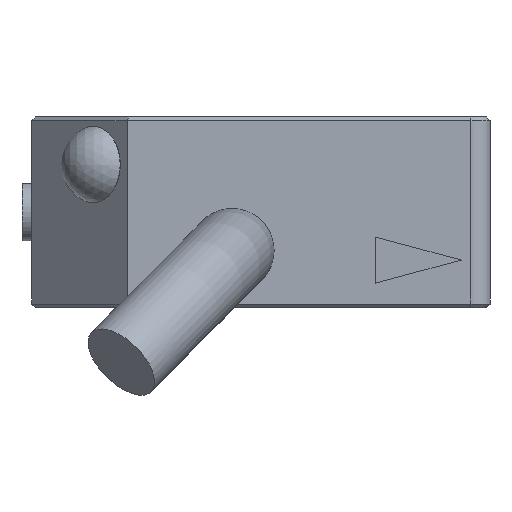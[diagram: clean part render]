
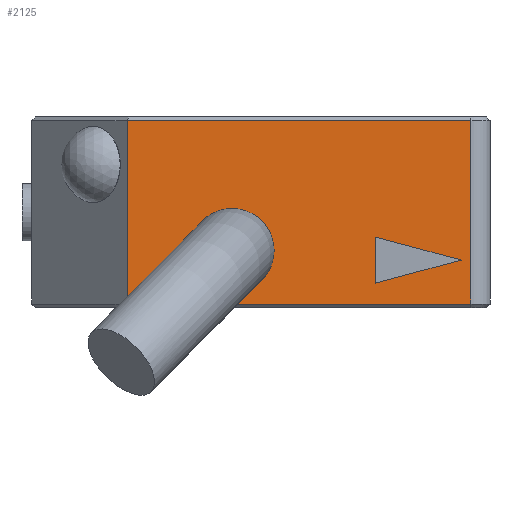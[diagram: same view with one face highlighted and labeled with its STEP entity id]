
A CAD part, left-side view. The second image highlights one B-rep face of the part: STEP entity #2125.
In plain terms, the highlighted planar face has unit normal (-1, 0, 0).
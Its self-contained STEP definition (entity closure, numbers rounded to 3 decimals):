
#136=FACE_BOUND('',#905,.T.);
#137=FACE_BOUND('',#906,.T.);
#180=CIRCLE('',#2309,2.2);
#181=CIRCLE('',#2310,2.2);
#307=LINE('',#3555,#512);
#309=LINE('',#3559,#514);
#310=LINE('',#3561,#515);
#311=LINE('',#3562,#516);
#312=LINE('',#3565,#517);
#313=LINE('',#3567,#518);
#314=LINE('',#3568,#519);
#512=VECTOR('',#2649,1000.);
#514=VECTOR('',#2653,1000.);
#515=VECTOR('',#2654,1000.);
#516=VECTOR('',#2655,1000.);
#517=VECTOR('',#2656,1000.);
#518=VECTOR('',#2657,1000.);
#519=VECTOR('',#2658,1000.);
#684=PLANE('',#2315);
#768=FACE_OUTER_BOUND('',#904,.T.);
#904=EDGE_LOOP('',(#1622,#1623,#1624,#1625));
#905=EDGE_LOOP('',(#1626,#1627));
#906=EDGE_LOOP('',(#1628,#1629,#1630));
#1092=VERTEX_POINT('',#3536);
#1093=VERTEX_POINT('',#3537);
#1099=VERTEX_POINT('',#3552);
#1100=VERTEX_POINT('',#3554);
#1101=VERTEX_POINT('',#3558);
#1102=VERTEX_POINT('',#3560);
#1103=VERTEX_POINT('',#3563);
#1104=VERTEX_POINT('',#3564);
#1105=VERTEX_POINT('',#3566);
#1285=EDGE_CURVE('',#1092,#1093,#180,.T.);
#1287=EDGE_CURVE('',#1093,#1092,#181,.T.);
#1293=EDGE_CURVE('',#1100,#1099,#307,.T.);
#1295=EDGE_CURVE('',#1099,#1101,#309,.T.);
#1296=EDGE_CURVE('',#1101,#1102,#310,.T.);
#1297=EDGE_CURVE('',#1102,#1100,#311,.T.);
#1298=EDGE_CURVE('',#1103,#1104,#312,.T.);
#1299=EDGE_CURVE('',#1105,#1103,#313,.T.);
#1300=EDGE_CURVE('',#1104,#1105,#314,.T.);
#1622=ORIENTED_EDGE('',*,*,#1293,.T.);
#1623=ORIENTED_EDGE('',*,*,#1295,.T.);
#1624=ORIENTED_EDGE('',*,*,#1296,.T.);
#1625=ORIENTED_EDGE('',*,*,#1297,.T.);
#1626=ORIENTED_EDGE('',*,*,#1285,.F.);
#1627=ORIENTED_EDGE('',*,*,#1287,.F.);
#1628=ORIENTED_EDGE('',*,*,#1298,.F.);
#1629=ORIENTED_EDGE('',*,*,#1299,.F.);
#1630=ORIENTED_EDGE('',*,*,#1300,.F.);
#2125=ADVANCED_FACE('',(#768,#136,#137),#684,.F.);
#2309=AXIS2_PLACEMENT_3D('',#3538,#2633,#2634);
#2310=AXIS2_PLACEMENT_3D('',#3540,#2636,#2637);
#2315=AXIS2_PLACEMENT_3D('',#3557,#2651,#2652);
#2633=DIRECTION('center_axis',(-1.,0.,0.));
#2634=DIRECTION('ref_axis',(0.,0.,-1.));
#2636=DIRECTION('center_axis',(-1.,0.,0.));
#2637=DIRECTION('ref_axis',(0.,0.,-1.));
#2649=DIRECTION('',(0.,0.,-1.));
#2651=DIRECTION('center_axis',(1.,0.,0.));
#2652=DIRECTION('ref_axis',(0.,0.,-1.));
#2653=DIRECTION('',(0.,-1.,0.));
#2654=DIRECTION('',(0.,0.,1.));
#2655=DIRECTION('',(0.,1.,0.));
#2656=DIRECTION('',(0.,-0.966,0.259));
#2657=DIRECTION('',(0.,0.,-1.));
#2658=DIRECTION('',(0.,0.966,0.259));
#3536=CARTESIAN_POINT('',(0.,13.5,0.8));
#3537=CARTESIAN_POINT('',(0.,13.5,5.2));
#3538=CARTESIAN_POINT('Origin',(0.,13.5,3.));
#3540=CARTESIAN_POINT('Origin',(0.,13.5,3.));
#3552=CARTESIAN_POINT('',(0.,19.,0.2));
#3554=CARTESIAN_POINT('',(0.,19.,9.8));
#3555=CARTESIAN_POINT('',(0.,19.,10.));
#3557=CARTESIAN_POINT('Origin',(0.,0.,10.));
#3558=CARTESIAN_POINT('',(0.,1.,0.2));
#3559=CARTESIAN_POINT('',(0.,1.,0.2));
#3560=CARTESIAN_POINT('',(0.,1.,9.8));
#3561=CARTESIAN_POINT('',(0.,1.,10.));
#3562=CARTESIAN_POINT('',(0.,0.,9.8));
#3563=CARTESIAN_POINT('',(0.,6.,1.294));
#3564=CARTESIAN_POINT('',(0.,1.5,2.5));
#3565=CARTESIAN_POINT('',(0.,6.,1.294));
#3566=CARTESIAN_POINT('',(0.,6.,3.706));
#3567=CARTESIAN_POINT('',(0.,6.,3.706));
#3568=CARTESIAN_POINT('',(0.,1.5,2.5));
